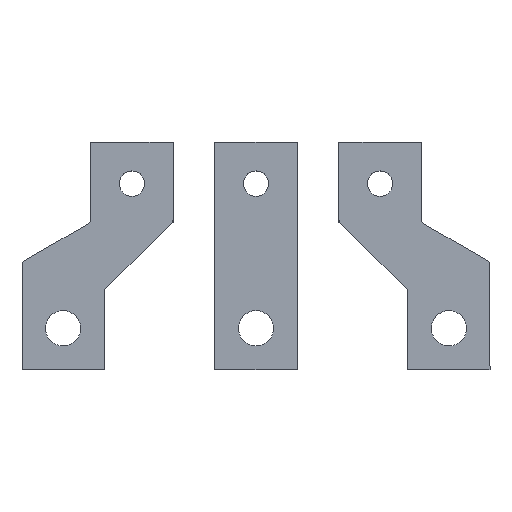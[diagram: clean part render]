
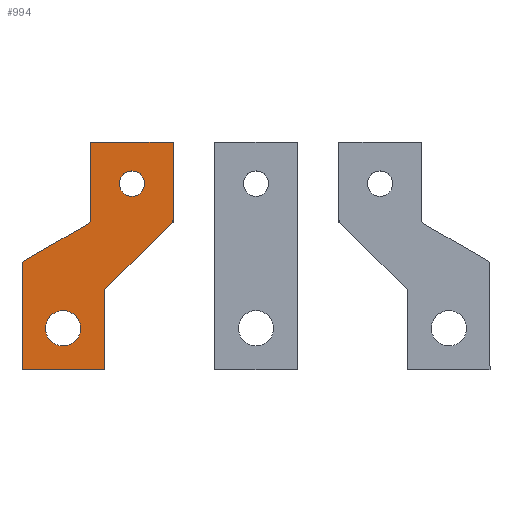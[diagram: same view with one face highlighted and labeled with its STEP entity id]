
A CAD part, top view. The second image highlights one B-rep face of the part: STEP entity #994.
In plain terms, the highlighted planar face has unit normal (0, 0, 1).
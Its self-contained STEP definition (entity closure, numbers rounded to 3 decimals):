
#24 = ORIENTED_EDGE ( 'NONE', *, *, #32, .T. ) ;
#26 = CARTESIAN_POINT ( 'NONE',  ( -40.4, -113.496, 44.3 ) ) ;
#32 = EDGE_CURVE ( 'NONE', #839, #191, #1151, .T. ) ;
#48 = CARTESIAN_POINT ( 'NONE',  ( -53.1, -152.836, 44.3 ) ) ;
#116 = ORIENTED_EDGE ( 'NONE', *, *, #2183, .T. ) ;
#174 = EDGE_CURVE ( 'NONE', #229, #2511, #2415, .T. ) ;
#182 = VERTEX_POINT ( 'NONE', #3439 ) ;
#191 = VERTEX_POINT ( 'NONE', #2892 ) ;
#193 = EDGE_CURVE ( 'NONE', #1575, #1949, #3050, .T. ) ;
#229 = VERTEX_POINT ( 'NONE', #2642 ) ;
#231 = VERTEX_POINT ( 'NONE', #2636 ) ;
#268 = DIRECTION ( 'NONE',  ( 0., 0., 1. ) ) ;
#290 = DIRECTION ( 'NONE',  ( 0., 0., 1. ) ) ;
#296 = VECTOR ( 'NONE', #1095, 1000. ) ;
#332 = LINE ( 'NONE', #2144, #296 ) ;
#333 = CIRCLE ( 'NONE', #2513, 6.4 ) ;
#335 = VERTEX_POINT ( 'NONE', #26 ) ;
#371 = CARTESIAN_POINT ( 'NONE',  ( -63.6, -165.996, 44.3 ) ) ;
#375 = CARTESIAN_POINT ( 'NONE',  ( -84.9, -180.996, 44.3 ) ) ;
#377 = EDGE_LOOP ( 'NONE', ( #2651, #1286 ) ) ;
#406 = DIRECTION ( 'NONE',  ( 1., 0., 0. ) ) ;
#419 = VECTOR ( 'NONE', #566, 1000. ) ;
#449 = DIRECTION ( 'NONE',  ( 1., 0., 0. ) ) ;
#451 = DIRECTION ( 'NONE',  ( 1., 0., 0. ) ) ;
#509 = EDGE_CURVE ( 'NONE', #182, #335, #2199, .T. ) ;
#549 = ORIENTED_EDGE ( 'NONE', *, *, #174, .T. ) ;
#557 = CARTESIAN_POINT ( 'NONE',  ( -70., -165.996, 44.3 ) ) ;
#566 = DIRECTION ( 'NONE',  ( -0.865, -0.502, 0. ) ) ;
#582 = DIRECTION ( 'NONE',  ( 1., 0., 0. ) ) ;
#591 = DIRECTION ( 'NONE',  ( 0., -1., 0. ) ) ;
#609 = AXIS2_PLACEMENT_3D ( 'NONE', #2313, #3116, #406 ) ;
#622 = EDGE_CURVE ( 'NONE', #2207, #3102, #3220, .T. ) ;
#648 = LINE ( 'NONE', #1292, #2657 ) ;
#685 = CIRCLE ( 'NONE', #2893, 6.4 ) ;
#739 = VERTEX_POINT ( 'NONE', #3412 ) ;
#771 = FACE_OUTER_BOUND ( 'NONE', #2426, .T. ) ;
#805 = AXIS2_PLACEMENT_3D ( 'NONE', #2427, #2433, #582 ) ;
#826 = DIRECTION ( 'NONE',  ( 1., 0., 0. ) ) ;
#839 = VERTEX_POINT ( 'NONE', #2630 ) ;
#852 = DIRECTION ( 'NONE',  ( 1., 0., 0. ) ) ;
#877 = ORIENTED_EDGE ( 'NONE', *, *, #3388, .T. ) ;
#887 = DIRECTION ( 'NONE',  ( 1., 0., 0. ) ) ;
#922 = EDGE_LOOP ( 'NONE', ( #2553, #1268 ) ) ;
#936 = CARTESIAN_POINT ( 'NONE',  ( -55.1, -180.996, 44.3 ) ) ;
#991 = DIRECTION ( 'NONE',  ( 0., 0., 1. ) ) ;
#994 = ADVANCED_FACE ( 'NONE', ( #2028, #1772, #771 ), #2824, .T. ) ;
#1022 = CIRCLE ( 'NONE', #3378, 2. ) ;
#1028 = LINE ( 'NONE', #375, #1680 ) ;
#1095 = DIRECTION ( 'NONE',  ( 0., -1., 0. ) ) ;
#1117 = ORIENTED_EDGE ( 'NONE', *, *, #1720, .T. ) ;
#1139 = CIRCLE ( 'NONE', #609, 4.6 ) ;
#1151 = CIRCLE ( 'NONE', #1481, 2. ) ;
#1208 = EDGE_CURVE ( 'NONE', #2511, #739, #648, .T. ) ;
#1253 = CARTESIAN_POINT ( 'NONE',  ( -54.5, -151.407, 44.3 ) ) ;
#1268 = ORIENTED_EDGE ( 'NONE', *, *, #2468, .F. ) ;
#1286 = ORIENTED_EDGE ( 'NONE', *, *, #509, .F. ) ;
#1292 = CARTESIAN_POINT ( 'NONE',  ( -30.1, -98.496, 44.3 ) ) ;
#1293 = DIRECTION ( 'NONE',  ( 0., 1., 0. ) ) ;
#1368 = VERTEX_POINT ( 'NONE', #2560 ) ;
#1481 = AXIS2_PLACEMENT_3D ( 'NONE', #1524, #2566, #449 ) ;
#1524 = CARTESIAN_POINT ( 'NONE',  ( -61.9, -126.343, 44.3 ) ) ;
#1575 = VERTEX_POINT ( 'NONE', #1253 ) ;
#1667 = DIRECTION ( 'NONE',  ( 0., 0., -1. ) ) ;
#1672 = DIRECTION ( 'NONE',  ( 1., 0., 0. ) ) ;
#1680 = VECTOR ( 'NONE', #887, 1000. ) ;
#1711 = DIRECTION ( 'NONE',  ( 0., 1., 0. ) ) ;
#1718 = VERTEX_POINT ( 'NONE', #1886 ) ;
#1720 = EDGE_CURVE ( 'NONE', #1949, #229, #3119, .T. ) ;
#1752 = CARTESIAN_POINT ( 'NONE',  ( -30.1, -126.655, 44.3 ) ) ;
#1772 = FACE_BOUND ( 'NONE', #377, .T. ) ;
#1872 = AXIS2_PLACEMENT_3D ( 'NONE', #1911, #2454, #852 ) ;
#1886 = CARTESIAN_POINT ( 'NONE',  ( -76.4, -165.996, 44.3 ) ) ;
#1903 = CARTESIAN_POINT ( 'NONE',  ( -55.1, -180.996, 44.3 ) ) ;
#1911 = CARTESIAN_POINT ( 'NONE',  ( -45., -113.496, 44.3 ) ) ;
#1919 = DIRECTION ( 'NONE',  ( 1., 0., 0. ) ) ;
#1949 = VERTEX_POINT ( 'NONE', #2081 ) ;
#1963 = ORIENTED_EDGE ( 'NONE', *, *, #1208, .T. ) ;
#2028 = FACE_BOUND ( 'NONE', #922, .T. ) ;
#2081 = CARTESIAN_POINT ( 'NONE',  ( -30.7, -128.084, 44.3 ) ) ;
#2087 = EDGE_CURVE ( 'NONE', #739, #839, #332, .T. ) ;
#2144 = CARTESIAN_POINT ( 'NONE',  ( -59.9, -98.496, 44.3 ) ) ;
#2146 = VECTOR ( 'NONE', #591, 1000. ) ;
#2183 = EDGE_CURVE ( 'NONE', #231, #3466, #2698, .T. ) ;
#2193 = EDGE_CURVE ( 'NONE', #191, #1368, #3425, .T. ) ;
#2199 = CIRCLE ( 'NONE', #1872, 4.6 ) ;
#2207 = VERTEX_POINT ( 'NONE', #1903 ) ;
#2229 = CARTESIAN_POINT ( 'NONE',  ( -55.1, -152.836, 44.3 ) ) ;
#2253 = CARTESIAN_POINT ( 'NONE',  ( -84.9, -180.996, 44.3 ) ) ;
#2280 = ORIENTED_EDGE ( 'NONE', *, *, #622, .T. ) ;
#2313 = CARTESIAN_POINT ( 'NONE',  ( -45., -113.496, 44.3 ) ) ;
#2317 = CARTESIAN_POINT ( 'NONE',  ( -53.1, -152.836, 44.3 ) ) ;
#2318 = VECTOR ( 'NONE', #2881, 1000. ) ;
#2361 = DIRECTION ( 'NONE',  ( -1., 0., 0. ) ) ;
#2368 = ORIENTED_EDGE ( 'NONE', *, *, #193, .T. ) ;
#2415 = LINE ( 'NONE', #1752, #2540 ) ;
#2421 = ORIENTED_EDGE ( 'NONE', *, *, #2087, .T. ) ;
#2426 = EDGE_LOOP ( 'NONE', ( #877, #2368, #1117, #549, #1963, #2421, #24, #2872, #2750, #116, #2660, #2280 ) ) ;
#2427 = CARTESIAN_POINT ( 'NONE',  ( -32.1, -126.655, 44.3 ) ) ;
#2433 = DIRECTION ( 'NONE',  ( 0., 0., 1. ) ) ;
#2434 = DIRECTION ( 'NONE',  ( 1., 0., 0. ) ) ;
#2454 = DIRECTION ( 'NONE',  ( 0., 0., 1. ) ) ;
#2468 = EDGE_CURVE ( 'NONE', #1718, #3474, #685, .T. ) ;
#2489 = AXIS2_PLACEMENT_3D ( 'NONE', #48, #1667, #1919 ) ;
#2511 = VERTEX_POINT ( 'NONE', #3498 ) ;
#2513 = AXIS2_PLACEMENT_3D ( 'NONE', #3248, #290, #2434 ) ;
#2540 = VECTOR ( 'NONE', #1293, 1000. ) ;
#2553 = ORIENTED_EDGE ( 'NONE', *, *, #2605, .F. ) ;
#2560 = CARTESIAN_POINT ( 'NONE',  ( -83.903, -141.418, 44.3 ) ) ;
#2566 = DIRECTION ( 'NONE',  ( 0., 0., -1. ) ) ;
#2605 = EDGE_CURVE ( 'NONE', #3474, #1718, #333, .T. ) ;
#2608 = CARTESIAN_POINT ( 'NONE',  ( -54.5, -151.407, 44.3 ) ) ;
#2611 = CIRCLE ( 'NONE', #2489, 2. ) ;
#2630 = CARTESIAN_POINT ( 'NONE',  ( -59.9, -126.343, 44.3 ) ) ;
#2636 = CARTESIAN_POINT ( 'NONE',  ( -84.9, -143.148, 44.3 ) ) ;
#2642 = CARTESIAN_POINT ( 'NONE',  ( -30.1, -126.655, 44.3 ) ) ;
#2651 = ORIENTED_EDGE ( 'NONE', *, *, #2988, .F. ) ;
#2657 = VECTOR ( 'NONE', #2361, 1000. ) ;
#2660 = ORIENTED_EDGE ( 'NONE', *, *, #3107, .T. ) ;
#2698 = LINE ( 'NONE', #3258, #2146 ) ;
#2705 = EDGE_CURVE ( 'NONE', #1368, #231, #1022, .T. ) ;
#2729 = CARTESIAN_POINT ( 'NONE',  ( -82.9, -143.148, 44.3 ) ) ;
#2750 = ORIENTED_EDGE ( 'NONE', *, *, #2705, .T. ) ;
#2824 = PLANE ( 'NONE',  #3369 ) ;
#2872 = ORIENTED_EDGE ( 'NONE', *, *, #2193, .T. ) ;
#2881 = DIRECTION ( 'NONE',  ( 0.714, 0.7, 0. ) ) ;
#2892 = CARTESIAN_POINT ( 'NONE',  ( -60.897, -128.074, 44.3 ) ) ;
#2893 = AXIS2_PLACEMENT_3D ( 'NONE', #557, #268, #826 ) ;
#2988 = EDGE_CURVE ( 'NONE', #335, #182, #1139, .T. ) ;
#3046 = VECTOR ( 'NONE', #1711, 1000. ) ;
#3050 = LINE ( 'NONE', #2608, #2318 ) ;
#3102 = VERTEX_POINT ( 'NONE', #2229 ) ;
#3107 = EDGE_CURVE ( 'NONE', #3466, #2207, #1028, .T. ) ;
#3116 = DIRECTION ( 'NONE',  ( 0., 0., 1. ) ) ;
#3119 = CIRCLE ( 'NONE', #805, 2. ) ;
#3220 = LINE ( 'NONE', #936, #3046 ) ;
#3248 = CARTESIAN_POINT ( 'NONE',  ( -70., -165.996, 44.3 ) ) ;
#3258 = CARTESIAN_POINT ( 'NONE',  ( -84.9, -143.148, 44.3 ) ) ;
#3280 = CARTESIAN_POINT ( 'NONE',  ( -60.897, -128.074, 44.3 ) ) ;
#3305 = DIRECTION ( 'NONE',  ( 0., 0., 1. ) ) ;
#3369 = AXIS2_PLACEMENT_3D ( 'NONE', #2317, #991, #451 ) ;
#3378 = AXIS2_PLACEMENT_3D ( 'NONE', #2729, #3305, #1672 ) ;
#3388 = EDGE_CURVE ( 'NONE', #3102, #1575, #2611, .T. ) ;
#3412 = CARTESIAN_POINT ( 'NONE',  ( -59.9, -98.496, 44.3 ) ) ;
#3425 = LINE ( 'NONE', #3280, #419 ) ;
#3439 = CARTESIAN_POINT ( 'NONE',  ( -49.6, -113.496, 44.3 ) ) ;
#3466 = VERTEX_POINT ( 'NONE', #2253 ) ;
#3474 = VERTEX_POINT ( 'NONE', #371 ) ;
#3498 = CARTESIAN_POINT ( 'NONE',  ( -30.1, -98.496, 44.3 ) ) ;
